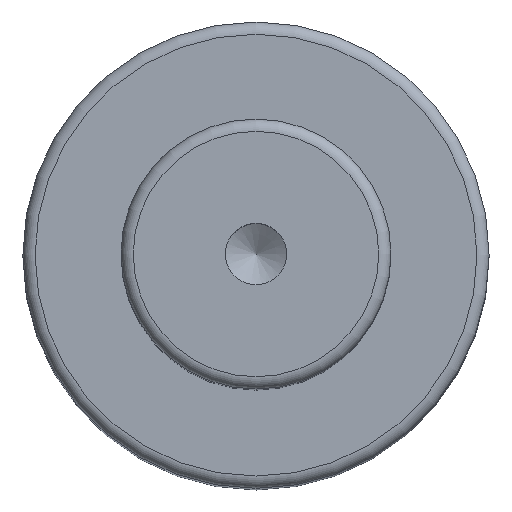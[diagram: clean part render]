
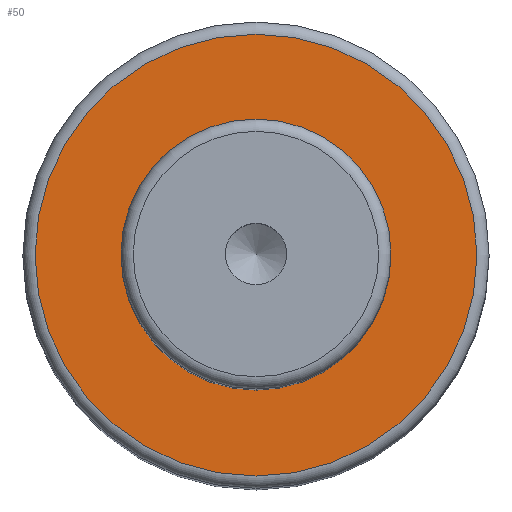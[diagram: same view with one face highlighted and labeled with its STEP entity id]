
A CAD part, top view. The second image highlights one B-rep face of the part: STEP entity #50.
In plain terms, the highlighted planar face has unit normal (0, 0, 1).
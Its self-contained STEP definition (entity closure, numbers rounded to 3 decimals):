
#40=PLANE('',#179);
#50=ADVANCED_FACE('',(#72,#73),#40,.F.);
#72=FACE_BOUND('',#96,.T.);
#73=FACE_BOUND('',#97,.T.);
#96=EDGE_LOOP('',(#118));
#97=EDGE_LOOP('',(#119));
#118=ORIENTED_EDGE('',*,*,#149,.F.);
#119=ORIENTED_EDGE('',*,*,#148,.T.);
#135=VERTEX_POINT('',#256);
#136=VERTEX_POINT('',#259);
#148=EDGE_CURVE('',#135,#135,#159,.T.);
#149=EDGE_CURVE('',#136,#136,#160,.T.);
#159=CIRCLE('',#176,11.);
#160=CIRCLE('',#178,18.);
#176=AXIS2_PLACEMENT_3D('',#255,#213,#214);
#178=AXIS2_PLACEMENT_3D('',#258,#217,#218);
#179=AXIS2_PLACEMENT_3D('',#260,#219,#220);
#213=DIRECTION('',(0.,0.,-1.));
#214=DIRECTION('',(-1.,0.,0.));
#217=DIRECTION('',(0.,0.,-1.));
#218=DIRECTION('',(-1.,0.,0.));
#219=DIRECTION('',(0.,0.,-1.));
#220=DIRECTION('',(-1.,0.,0.));
#255=CARTESIAN_POINT('',(0.,0.,79.));
#256=CARTESIAN_POINT('',(-11.,0.,79.));
#258=CARTESIAN_POINT('',(0.,0.,79.));
#259=CARTESIAN_POINT('',(-18.,0.,79.));
#260=CARTESIAN_POINT('',(11.,0.,79.));
